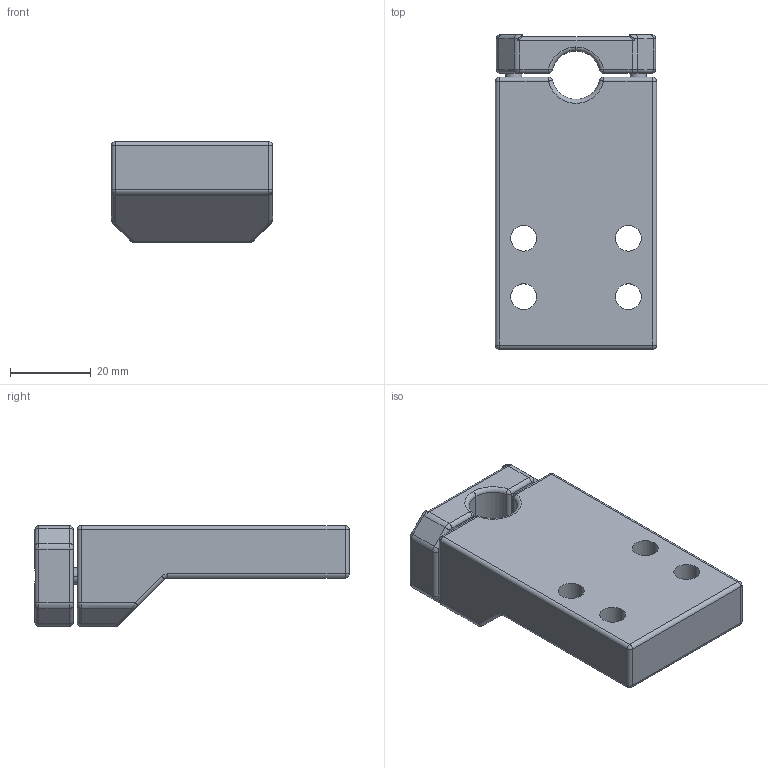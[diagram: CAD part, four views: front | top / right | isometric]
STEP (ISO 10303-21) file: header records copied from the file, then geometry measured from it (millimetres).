
FILE_DESCRIPTION (( 'STEP AP203' ), '1' );
FILE_NAME ('75003007.STEP', '2016-11-02T15:35:33', ( '' ), ( '' ), 'SwSTEP 2.0', 'SolidWorks 2015', '' );
FILE_SCHEMA (( 'CONFIG_CONTROL_DESIGN' ));
Length unit declared in the file: millimetre
Products named in the file (1): 75003007
Bounding box: 40 x 78 x 25 mm (x, y, z)
Volume: 44846.8 mm3; surface area: 13864.7 mm2
Topology: 1 solids, 3 shells, 220 faces, 519 edges, 299 vertices
Faces by surface type: cylinder 99, plane 56, torus 35, sphere 14, cone 12, bspline 4
Entity records: 6382 total; most frequent: CARTESIAN_POINT 1231, DIRECTION 1161, ORIENTED_EDGE 1002, EDGE_CURVE 501, AXIS2_PLACEMENT_3D 471, VERTEX_POINT 299, CIRCLE 254, EDGE_LOOP 242
